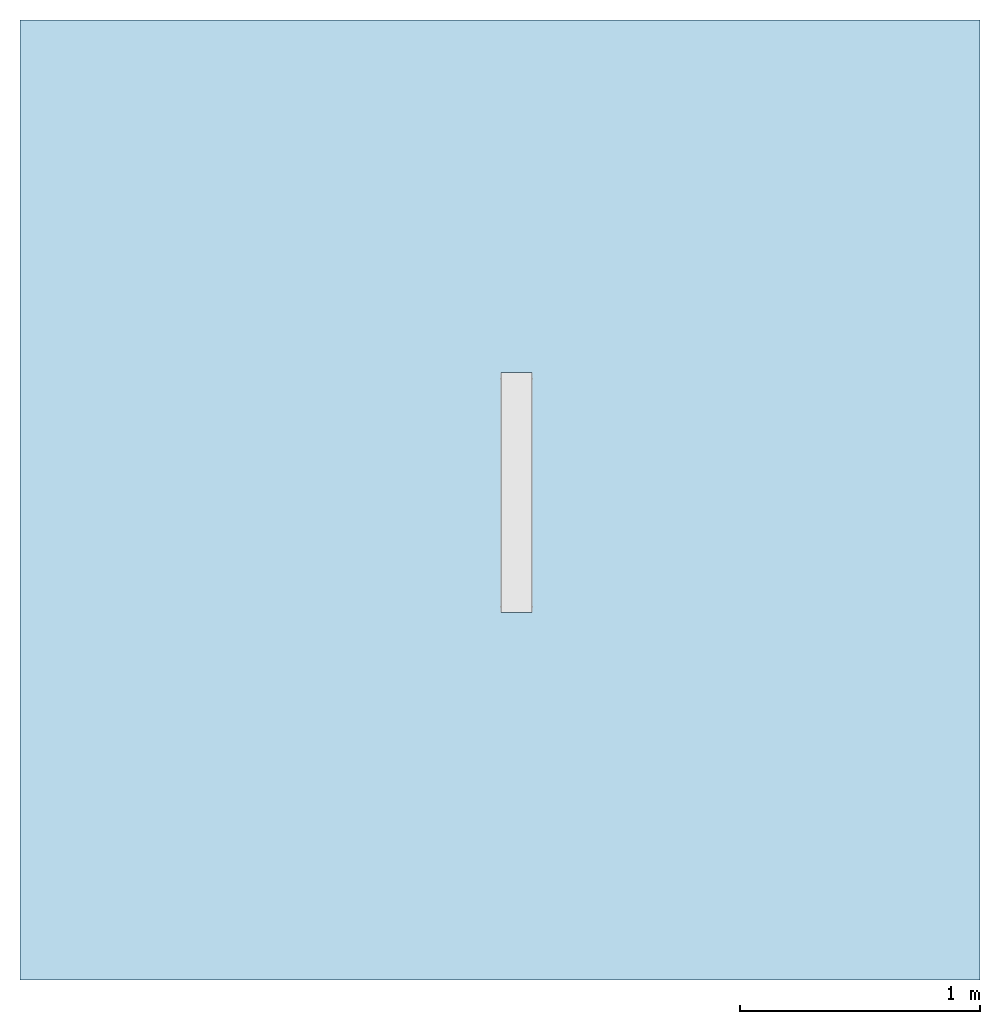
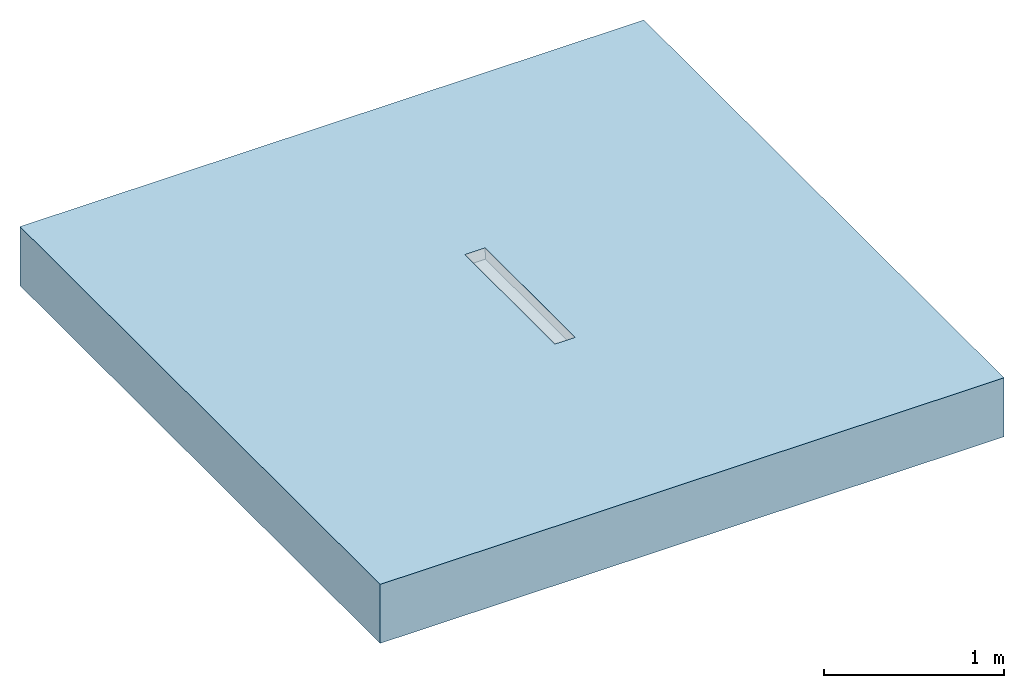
# One storey, incomplete: 1 slab, 1 opening.
"""IFC2X3 building model written with IfcOpenShell, lengths in millimetres."""

import ifcopenshell
import ifcopenshell.guid

model = None  # the IFC model being written
_history = None  # IfcOwnerHistory: only IFC2X3 demands one
_inside = {}  # id of a spatial element -> (the spatial element, [elements in it])
_under = {}  # id of a project, library or spatial element -> (it, [spatial elements below it])
_declared = {}  # id of a project -> (the project, [libraries it declares])
_typed = {}  # id of a type object -> (the type object, [elements of that type])
_made_of = {}  # id of a material, layer set ... -> (it, [elements and type objects made of it])


def new_model(schema):
    """Start an empty IFC model of exactly this schema.

    Asked for "IFC4X3", IfcOpenShell would pick the latest addendum, in which some entities
    have other attributes; the version numbers below select the first issue.
    IFC2X3 requires an IfcOwnerHistory on every rooted entity: one is made here for all.
    """
    global model, _history
    if schema == "IFC4X3":
        model = ifcopenshell.file(schema_version=(4, 3, 0, 0))
    else:
        model = ifcopenshell.file(schema=schema)
    _inside.clear()
    _under.clear()
    _declared.clear()
    _typed.clear()
    _made_of.clear()
    _history = None
    if model.schema == "IFC2X3":
        org = make("IfcOrganization", Name="unknown")
        user = make(
            "IfcPersonAndOrganization",
            ThePerson=make("IfcPerson", FamilyName="unknown"),
            TheOrganization=org,
        )
        app = make(
            "IfcApplication",
            ApplicationDeveloper=org,
            Version="unknown",
            ApplicationFullName="unknown",
            ApplicationIdentifier="unknown",
        )
        _history = make(
            "IfcOwnerHistory",
            OwningUser=user,
            OwningApplication=app,
            ChangeAction="ADDED",
            CreationDate=0,
        )
    return model


def make(cls, **values):
    """One entity of the class cls with the attributes given. An attribute that is None is left unset."""
    return model.create_entity(
        cls, **{name: value for name, value in values.items() if value is not None}
    )


def entity(cls, *values):
    """Any entity or typed value of the class cls, its attributes in the order of the schema. None: left unset."""
    e = model.create_entity(cls)
    for i, value in enumerate(values):
        if value is not None:
            e[i] = value
    return e


def rooted(cls, **values):
    """An entity with a GlobalId (a new one), such as an element, a storey or a relation."""
    return make(cls, GlobalId=ifcopenshell.guid.new(), OwnerHistory=_history, **values)


def si_unit(unit_type, name, prefix=None):
    """IfcSIUnit, for example si_unit("LENGTHUNIT", "METRE", prefix="MILLI")."""
    return make("IfcSIUnit", UnitType=unit_type, Prefix=prefix, Name=name)


def converted_unit(unit_type, name, factor, base, dimensions=None, offset=None):
    """IfcConversionBasedUnit, such as the inch: factor (a typed value) times the base unit."""
    return make(
        "IfcConversionBasedUnit"
        if offset is None
        else "IfcConversionBasedUnitWithOffset",
        ConversionOffset=offset,
        Dimensions=None
        if dimensions is None
        else entity("IfcDimensionalExponents", *dimensions),
        UnitType=unit_type,
        Name=name,
        ConversionFactor=make(
            "IfcMeasureWithUnit", ValueComponent=factor, UnitComponent=base
        ),
    )


def derived_unit(unit_type, elements):
    """IfcDerivedUnit: a product of units, each with its exponent."""
    return make(
        "IfcDerivedUnit",
        Elements=[
            make("IfcDerivedUnitElement", Unit=unit, Exponent=power)
            for unit, power in elements
        ],
        UnitType=unit_type,
    )


def assignment(units):
    """IfcUnitAssignment: the units of a project."""
    return None if units is None else make("IfcUnitAssignment", Units=units)


def point(xyz):
    """IfcCartesianPoint."""
    return None if xyz is None else make("IfcCartesianPoint", Coordinates=xyz)


def direction(xyz):
    """IfcDirection."""
    return None if xyz is None else make("IfcDirection", DirectionRatios=xyz)


def frame(location, z_axis=None, x_axis=None):
    """IfcAxis2Placement3D, a coordinate frame: its origin and axes. An axis left out is left unset."""
    return make(
        "IfcAxis2Placement3D",
        Location=point(location),
        Axis=direction(z_axis),
        RefDirection=direction(x_axis),
    )


def frame_2d(location, x_axis=None):
    """IfcAxis2Placement2D, a coordinate frame in the plane: its origin and x axis."""
    return make(
        "IfcAxis2Placement2D", Location=point(location), RefDirection=direction(x_axis)
    )


def origin():
    """The frame at (0, 0, 0) with its axes left unset."""
    return frame((0.0, 0.0, 0.0))


def place(relative_to, where):
    """IfcLocalPlacement: puts the frame where relative to a parent placement (None: the world)."""
    return make(
        "IfcLocalPlacement", PlacementRelTo=relative_to, RelativePlacement=where
    )


def context(
    kind, dimensions, precision=None, world=None, true_north=None, identifier=None
):
    """IfcGeometricRepresentationContext, for example the 3D "Model" context."""
    return make(
        "IfcGeometricRepresentationContext",
        ContextIdentifier=identifier,
        ContextType=kind,
        CoordinateSpaceDimension=dimensions,
        Precision=precision,
        WorldCoordinateSystem=world,
        TrueNorth=true_north,
    )


def subcontext(parent, identifier, kind, view, scale=None):
    """IfcGeometricRepresentationSubContext, for example "Body" below "Model"."""
    return make(
        "IfcGeometricRepresentationSubContext",
        ContextIdentifier=identifier,
        ContextType=kind,
        ParentContext=parent,
        TargetScale=scale,
        TargetView=view,
    )


def project(units=None, contexts=None):
    """IfcProject with its units and contexts."""
    return rooted(
        "IfcProject",
        Name="project",
        RepresentationContexts=contexts,
        UnitsInContext=assignment(units),
    )


def spatial(cls, under=None, at=None, **own):
    """A site, building, storey or space (cls), placed at a placement, below another one or the project."""
    s = rooted(cls, ObjectPlacement=at, **own)
    if under is not None:
        _under.setdefault(under.id(), (under, []))[1].append(s)
    return s


def polyline(points):
    """IfcPolyline through the points."""
    return make("IfcPolyline", Points=[point(p) for p in points])


def profile(cls, at=None, kind="AREA", **sizes):
    """A parametric profile (cls). Its sizes go by their IFC names, for example OverallWidth=200.0."""
    return make(cls, ProfileType=kind, Position=at, **sizes)


def rectangle(**sizes):
    """IfcRectangleProfileDef."""
    return profile("IfcRectangleProfileDef", **sizes)


def outline(outer, holes=None, kind="AREA"):
    """IfcArbitraryClosedProfileDef: a profile drawn as a closed curve; with holes, ...WithVoids."""
    if holes is None:
        return make("IfcArbitraryClosedProfileDef", ProfileType=kind, OuterCurve=outer)
    return make(
        "IfcArbitraryProfileDefWithVoids",
        ProfileType=kind,
        OuterCurve=outer,
        InnerCurves=holes,
    )


def extrude(swept, where, along, depth):
    """IfcExtrudedAreaSolid: the profile swept, set in the frame where, extruded along a direction by depth."""
    return make(
        "IfcExtrudedAreaSolid",
        SweptArea=swept,
        Position=where,
        ExtrudedDirection=direction(along),
        Depth=depth,
    )


def shape(context_of_items, identifier, shape_type, items):
    """IfcShapeRepresentation: the items that make up one representation, for example the "Body"."""
    return make(
        "IfcShapeRepresentation",
        ContextOfItems=context_of_items,
        RepresentationIdentifier=identifier,
        RepresentationType=shape_type,
        Items=items,
    )


def material(Name=None, Category=None):
    """IfcMaterial."""
    return make("IfcMaterial", Name=Name, Category=Category)


def layer(
    of_material, thickness, ventilated=None, Name=None, Category=None, Priority=None
):
    """IfcMaterialLayer: one layer of a wall or slab, of a material (None: an air gap)."""
    return make(
        "IfcMaterialLayer",
        Material=of_material,
        LayerThickness=thickness,
        IsVentilated=ventilated,
        Name=Name,
        Category=Category,
        Priority=Priority,
    )


def layer_set(layers, Name=None):
    """IfcMaterialLayerSet."""
    return make("IfcMaterialLayerSet", MaterialLayers=layers, LayerSetName=Name)


def layer_usage(for_layer_set, set_direction, sense, offset, extent=None):
    """IfcMaterialLayerSetUsage: how a layer set lies in its element."""
    return make(
        "IfcMaterialLayerSetUsage",
        ForLayerSet=for_layer_set,
        LayerSetDirection=set_direction,
        DirectionSense=sense,
        OffsetFromReferenceLine=offset,
        ReferenceExtent=extent,
    )


def made_of(thing, what):
    """Note that an element or type object is made of a material, layer set ...; save() writes the relation."""
    if what is not None:
        _made_of.setdefault(what.id(), (what, []))[1].append(thing)
    return thing


def element(
    cls,
    number,
    at=None,
    inside=None,
    cuts=None,
    type_object=None,
    material=None,
    context=None,
    identifier="Body",
    shape_type=None,
    held_by="IfcProductDefinitionShape",
    body=None,
    shapes=None,
    **own,
):
    """One element of the class cls, such as IfcWall. Its Tag is "e" and its number.

    at: its placement. inside: the storey or other place that contains it. cuts: it is an
    opening in that element (IfcRelVoidsElement). A single representation is given by context,
    identifier, shape_type and body (its items); several are given by shapes. held_by: the class
    of the entity that holds the representations. save() writes the other relations.
    """
    e = rooted(cls, Tag="e%d" % number, ObjectPlacement=at, **own)
    if body is not None:
        shapes = [shape(context, identifier, shape_type, body)]
    if shapes is not None:
        e.Representation = make(held_by, Representations=shapes)
    if inside is not None:
        _inside.setdefault(inside.id(), (inside, []))[1].append(e)
    if cuts is not None:
        rooted(
            "IfcRelVoidsElement", RelatingBuildingElement=cuts, RelatedOpeningElement=e
        )
    if type_object is not None:
        _typed.setdefault(type_object.id(), (type_object, []))[1].append(e)
    return made_of(e, material)


def aggregate(whole, parts):
    """IfcRelAggregates: a whole, such as a stair, and the parts it consists of."""
    return rooted("IfcRelAggregates", RelatingObject=whole, RelatedObjects=parts)


def save(model, path):
    """Write the relations noted so far, then the file.

    IfcRelAggregates (storeys below a building ...), IfcRelContainedInSpatialStructure (elements
    in a storey), IfcRelDefinesByType, IfcRelAssociatesMaterial and IfcRelDeclares: one each for
    every whole, place, type object, material and project.
    """
    for whole, parts in _under.values():
        aggregate(whole, parts)
    for where, things in _inside.values():
        rooted(
            "IfcRelContainedInSpatialStructure",
            RelatedElements=things,
            RelatingStructure=where,
        )
    for kind, things in _typed.values():
        rooted("IfcRelDefinesByType", RelatedObjects=things, RelatingType=kind)
    for what, things in _made_of.values():
        rooted("IfcRelAssociatesMaterial", RelatedObjects=things, RelatingMaterial=what)
    for by, libraries in _declared.values():
        rooted("IfcRelDeclares", RelatingContext=by, RelatedDefinitions=libraries)
    model.write(path)


model = new_model("IFC2X3")

# Units and contexts
model_context = context("Model", 3, precision=1e-05, world=origin(), true_north=direction((2.0, 6.12303176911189e-17, 1.0)))
context_of_model = context(None, 3, precision=1e-05, world=origin(), true_north=direction((2.0, 6.12303176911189e-17, 1.0)))
body_context = subcontext(model_context, "Body", "Model", "MODEL_VIEW")
ifc_project = project(units=[si_unit("LENGTHUNIT", "METRE", prefix="MILLI"), si_unit("AREAUNIT", "SQUARE_METRE"), si_unit("VOLUMEUNIT", "CUBIC_METRE"), converted_unit("PLANEANGLEUNIT", "DEGREE", entity("IfcRatioMeasure", 0.0174532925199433), si_unit("PLANEANGLEUNIT", "RADIAN"), dimensions=[0, 0, 0, 0, 0, 0, 0]), si_unit("MASSUNIT", "GRAM", prefix="KILO"), si_unit("TIMEUNIT", "SECOND"), si_unit("THERMODYNAMICTEMPERATUREUNIT", "KELVIN"), derived_unit("THERMALTRANSMITTANCEUNIT", [(si_unit("MASSUNIT", "GRAM", prefix="KILO"), 1), (si_unit("THERMODYNAMICTEMPERATUREUNIT", "KELVIN"), -1), (si_unit("TIMEUNIT", "SECOND"), -3)]), derived_unit("VOLUMETRICFLOWRATEUNIT", [(si_unit("LENGTHUNIT", "METRE"), 3), (si_unit("TIMEUNIT", "SECOND"), -1)]), si_unit("POWERUNIT", "WATT")], contexts=[model_context, context_of_model])

# Site, building, storey
site_placement = place(None, origin())
site = spatial("IfcSite", under=ifc_project, at=site_placement, Name="Default", CompositionType="ELEMENT")
building_placement = place(site_placement, origin())
building = spatial("IfcBuilding", under=site, at=building_placement, CompositionType="ELEMENT")
storey_placement = place(building_placement, origin())
storey = spatial("IfcBuildingStorey", under=building, at=storey_placement, Name="Level 1", CompositionType="ELEMENT", Elevation=0.0)

# Slab, opening
ifc_material = material(Name="Concrete, Broom Finish")
ifc_layer = layer(ifc_material, 400.0)
ifc_layer_set = layer_set([ifc_layer], Name="Floor:Generic Floor - 400mm")
ifc_layer_usage = layer_usage(ifc_layer_set, "AXIS3", "POSITIVE", 0.0)
slab_placement = place(storey_placement, origin())
slab = element("IfcSlab", 1, at=slab_placement, inside=storey, material=ifc_layer_usage, Name="Floor:Generic Floor - 400mm", ObjectType="Floor:Generic Floor - 400mm", PredefinedType="FLOOR", context=body_context, shape_type="SweptSolid", body=[
    extrude(rectangle(XDim=4000.0, YDim=4000.0, at=frame_2d((0.0, 0.0), x_axis=(0.0, -1.0))), frame((-42.176138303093, 2.05004766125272, 0.0), z_axis=(0.0, 0.0, -1.0), x_axis=(-1.0, 0.0, 0.0)), (0.0, 0.0, 1.0), 400.0),
])
opening_placement = place(slab_placement, origin())
element("IfcOpeningElement", 2, at=opening_placement, cuts=slab, ObjectType="Recess", context=body_context, shape_type="SweptSolid", body=[
    extrude(outline(polyline([(-3.75000000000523, -67.0), (42.2499999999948, -67.0), (42.2499999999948, 67.0), (-3.75000000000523, 67.0), (-3.74999999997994, 65.0), (-34.7500000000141, 65.0), (-34.7499999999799, -65.0), (-3.75000000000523, -65.0), (-3.75000000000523, -67.0)])), frame((26.5738616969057, -467.741619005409, -34.7500000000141), z_axis=(0.0, 1.0, 0.0), x_axis=(0.0, 0.0, -1.0)), (0.0, 0.0, 1.0), 1000.0),
])

save(model, "model.ifc")
